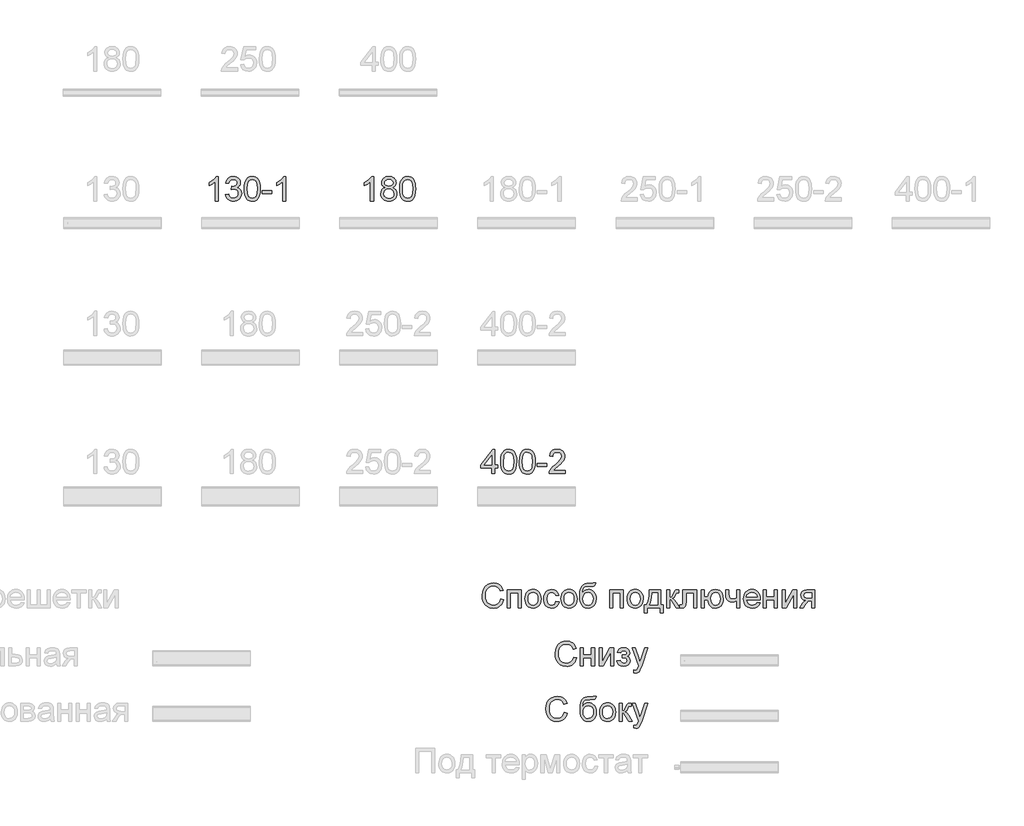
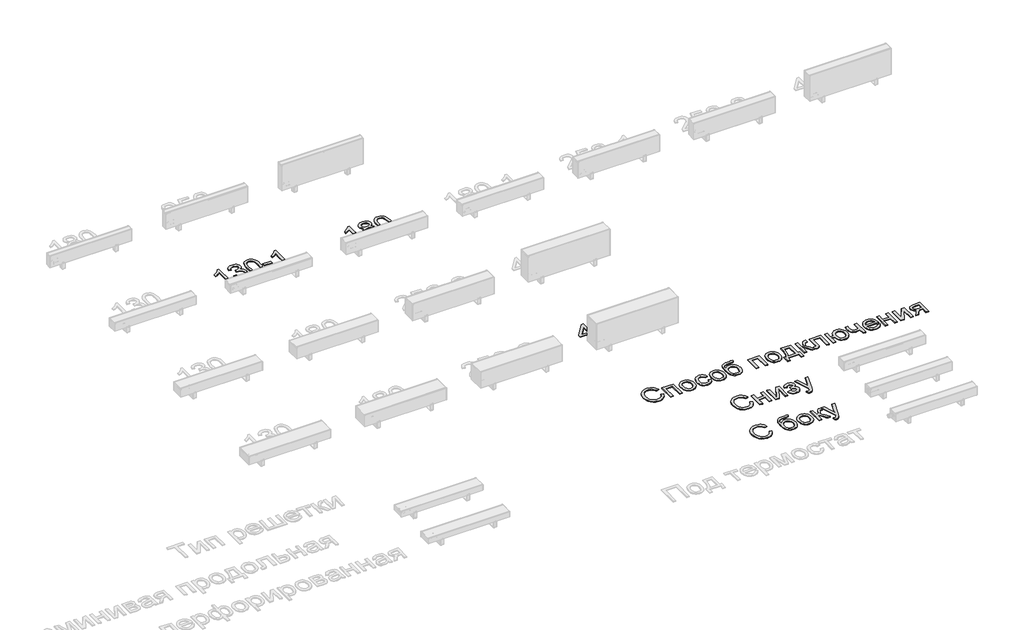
# One storey, part 5 of 7: 6 proxies.
"""IFC4 building model written with IfcOpenShell, lengths in millimetres."""

from ifc_helpers import new_model, si_unit, origin, origin_with_axes, place, context, project, spatial, polyline, outline, extrude, element, save

model = new_model("IFC4")

# Units and contexts
model_context = context("Model", 3, world=origin())
ifc_project = project(units=[si_unit("LENGTHUNIT", "METRE", prefix="MILLI")], contexts=[model_context])

# Site, building, storey
site = spatial("IfcSite", under=ifc_project)
building = spatial("IfcBuilding", under=site)
storey = spatial("IfcBuildingStorey", under=building, Name="Уровень 1", Elevation=0.0)

# Proxies
placement = place(None, origin())
element("IfcBuildingElementProxy", 1, Name="Текст модели 1", ObjectType="Текст модели 1", at=placement, inside=storey, context=model_context, shape_type="SweptSolid", body=[
    extrude(outline(polyline([(4726.2052586, -1140.7706341), (4688.5341423, -1140.7706341), (4688.5341423, -905.9147684), (4652.8495888, -931.3354142), (4613.1919097, -950.3549134), (4613.1919097, -914.7439363), (4642.7788191, -898.649099), (4668.4109972, -879.5008411), (4688.6169157, -859.1385727), (4701.9250469, -839.4017036), (4726.2052586, -839.4017036), (4726.2052586, -1140.7706341)])), origin_with_axes(), (0.0, 0.0, 1.0), 10.0),
    extrude(outline(polyline([(4815.6741598, -1060.7195119), (4853.3452761, -1056.0106224), (4861.7789709, -1079.6838288), (4874.1306089, -1095.6683015), (4891.0071954, -1104.7733809), (4913.0157357, -1107.8084073), (4938.8410518, -1103.6329467), (4958.7802559, -1091.1065647), (4971.5273671, -1072.4181594), (4975.7764041, -1049.7566285), (4971.5641553, -1028.2447288), (4958.9274087, -1010.7979252), (4939.797545, -999.2372335), (4916.1059445, -995.3836696), (4889.6920173, -999.5039479), (4893.885872, -961.8328316), (4899.9191367, -962.27429), (4922.4886971, -959.5703574), (4942.6670246, -951.4585594), (4956.9040578, -937.736561), (4961.6497355, -918.202027), (4958.2100389, -901.9324458), (4947.8909489, -888.7346792), (4932.1455995, -879.9882848), (4912.4271246, -877.0728199), (4892.6718614, -880.0158759), (4876.5218418, -888.8450438), (4864.7312239, -903.5603236), (4858.0541657, -924.1617153), (4820.3830494, -919.4528258), (4831.4746915, -885.6260763), (4851.2115606, -860.3709774), (4878.214099, -844.6440221), (4911.1027494, -839.4017036), (4934.7851528, -841.9860747), (4956.5361758, -849.7391877), (4974.8750932, -861.971264), (4988.3211802, -877.9925249), (4996.5709339, -896.451004), (4999.3208518, -915.994735), (4996.7088896, -934.2048938), (4988.8730031, -950.7227954), (4975.9235569, -964.7942817), (4957.9709156, -975.6651947), (4981.5521514, -985.1933383), (4999.0265462, -1001.4169343), (5009.8422769, -1023.4530658), (5013.4475204, -1050.4188161), (5011.6448987, -1069.5302857), (5006.2370333, -1087.1334392), (4997.2239244, -1103.2282765), (4984.605572, -1117.8147976), (4969.2327031, -1129.9181152), (4951.9560449, -1138.5633421), (4932.7755974, -1143.7504783), (4911.6913606, -1145.4795236), (4892.6350732, -1144.0033971), (4875.271043, -1139.5750176), (4859.59927, -1132.1943851), (4845.6197542, -1121.8614995), (4833.8981142, -1109.1833663), (4824.9999684, -1094.7669906), (4818.925317, -1078.6123725), (4815.6741598, -1060.7195119)])), origin_with_axes(), (0.0, 0.0, 1.0), 10.0),
    extrude(outline(polyline([(5046.4097472, -992.51419), (5049.1780592, -944.2756634), (5057.4829953, -905.8044038), (5071.2417819, -876.5117999), (5090.3716456, -855.8092406), (5115.0105422, -843.5035879), (5145.2964275, -839.4017036), (5168.5097814, -841.8297248), (5189.2951141, -849.1137883), (5206.6775384, -860.9687856), (5219.6821669, -877.1096081), (5229.5046162, -897.3983002), (5237.3405027, -921.696906), (5242.4724565, -952.5530083), (5244.1831078, -992.51419), (5241.4423869, -1040.4768052), (5233.2202243, -1078.8560943), (5219.5442112, -1108.1762893), (5200.4419386, -1128.961622), (5175.7478596, -1141.3500482), (5145.2964275, -1145.4795236), (5124.547883, -1143.6860989), (5106.1537832, -1138.3058247), (5090.1141282, -1129.3387011), (5076.428918, -1116.784728), (5063.2955308, -1094.0910074), (5053.9145399, -1065.8146776), (5048.2859454, -1031.9557384), (5046.4097472, -992.51419)]), holes=[polyline([(5084.0808635, -992.4406136), (5088.4954474, -1051.697206), (5094.0136774, -1071.9652047), (5101.7391993, -1085.993005), (5121.4576742, -1102.3545567), (5145.2964275, -1107.8084073), (5169.1351808, -1102.3361626), (5188.8536557, -1085.9194286), (5196.5791776, -1071.8686357), (5202.0974076, -1051.6052355), (5206.5119915, -992.4406136), (5202.2445604, -934.5175935), (5196.9102714, -914.3162734), (5189.4422669, -899.95508), (5169.7605802, -882.793385), (5144.8549691, -877.0728199), (5121.2737332, -882.1128033), (5102.3278105, -897.2327533), (5094.3447712, -912.8677381), (5088.6426002, -933.9473764), (5084.0808635, -992.4406136)])]), origin_with_axes(), (0.0, 0.0, 1.0), 10.0),
    extrude(outline(polyline([(5267.7275555, -1051.3017329), (5267.7275555, -1013.6306166), (5385.449794, -1013.6306166), (5385.449794, -1051.3017329), (5267.7275555, -1051.3017329)])), origin_with_axes(), (0.0, 0.0, 1.0), 10.0),
    extrude(outline(polyline([(5559.6787069, -1140.7706341), (5522.0075906, -1140.7706341), (5522.0075906, -905.9147684), (5486.323037, -931.3354142), (5446.6653579, -950.3549134), (5446.6653579, -914.7439363), (5476.2522674, -898.649099), (5501.8844454, -879.5008411), (5522.090364, -859.1385727), (5535.3984952, -839.4017036), (5559.6787069, -839.4017036), (5559.6787069, -1140.7706341)])), origin_with_axes(), (0.0, 0.0, 1.0), 10.0),
])
element("IfcBuildingElementProxy", 2, Name="Текст модели 1", ObjectType="Текст модели 1", at=placement, inside=storey, context=model_context, shape_type="SweptSolid", body=[
    extrude(outline(polyline([(6638.3097764, -1140.7706341), (6600.6386601, -1140.7706341), (6600.6386601, -905.9147684), (6564.9541066, -931.3354142), (6525.2964275, -950.3549134), (6525.2964275, -914.7439363), (6554.883337, -898.649099), (6580.515515, -879.5008411), (6600.7214336, -859.1385727), (6614.0295647, -839.4017036), (6638.3097764, -839.4017036), (6638.3097764, -1140.7706341)])), origin_with_axes(), (0.0, 0.0, 1.0), 10.0),
    extrude(outline(polyline([(6782.6666713, -974.7822779), (6762.4975409, -964.849464), (6748.3432812, -951.384983), (6739.9831628, -934.6647463), (6737.1964567, -914.9646655), (6738.71397, -899.6009936), (6743.2665096, -885.5157117), (6750.8540758, -872.7088198), (6761.4766684, -861.1803178), (6774.6238512, -851.6521741), (6789.7851879, -844.8463572), (6826.1503232, -839.4017036), (6862.7361876, -844.9751159), (6878.0630712, -851.9418812), (6891.4125891, -861.6953525), (6902.2283198, -873.4491823), (6909.9538417, -886.4170226), (6914.5891548, -900.5988735), (6916.1342592, -915.994735), (6913.3843413, -935.0602194), (6905.1345875, -951.4953476), (6891.2930275, -964.8770551), (6871.7676906, -974.7822779), (6894.9534533, -986.7292457), (6911.8300398, -1004.3232021), (6922.1215386, -1026.7180185), (6925.5520383, -1053.0675664), (6923.850584, -1071.8571393), (6918.7462213, -1089.0832138), (6910.2389502, -1104.7457897), (6898.3287706, -1118.8448672), (6883.641082, -1130.4975294), (6866.8012836, -1138.8208595), (6847.8093756, -1143.8148576), (6826.6653579, -1145.4795236), (6805.5213403, -1143.8079598), (6786.5294323, -1138.7932684), (6769.6896339, -1130.4354493), (6755.0019453, -1118.7345026), (6743.0917657, -1104.5365568), (6734.5844946, -1088.6877406), (6729.4801319, -1071.188054), (6727.7786776, -1052.0374969), (6731.347133, -1024.6670764), (6742.0524991, -1002.1526983), (6759.3429528, -985.2669147), (6782.6666713, -974.7822779)]), holes=[polyline([(6765.449794, -1050.7131217), (6771.7405761, -1079.0768235), (6780.4501823, -1091.2445205), (6793.9974368, -1100.3036146), (6810.2210328, -1105.9322091), (6826.9596635, -1107.8084073), (6852.6010386, -1103.8628729), (6871.841267, -1092.0262697), (6883.8710082, -1074.1012195), (6887.8809219, -1051.8903441), (6883.7422495, -1029.3023896), (6871.3262322, -1010.9818662), (6851.6445454, -998.8417604), (6825.7088648, -994.7950584), (6800.4261746, -998.7865781), (6781.3790843, -1010.761137), (6769.4321165, -1028.7321725), (6765.449794, -1050.7131217)]), polyline([(6774.867573, -916.0683114), (6778.2061021, -932.5126366), (6788.2216895, -945.6460238), (6804.6200294, -954.2544625), (6827.1068163, -957.1239421), (6849.0693715, -954.2728566), (6865.219391, -945.7196002), (6875.1522049, -933.0276714), (6878.4631429, -917.7605686), (6875.0418403, -901.9140517), (6864.7779326, -888.8082556), (6848.4071839, -880.0066789), (6826.6653579, -877.0728199), (6804.7855763, -879.9422995), (6788.4424186, -888.5507382), (6778.2612844, -901.1690906), (6774.867573, -916.0683114)])]), origin_with_axes(), (0.0, 0.0, 1.0), 10.0),
    extrude(outline(polyline([(6958.514265, -992.51419), (6961.282577, -944.2756634), (6969.5875131, -905.8044038), (6983.3462997, -876.5117999), (7002.4761634, -855.8092406), (7027.1150601, -843.5035879), (7057.4009453, -839.4017036), (7080.6142992, -841.8297248), (7101.3996319, -849.1137883), (7118.7820562, -860.9687856), (7131.7866847, -877.1096081), (7141.609134, -897.3983002), (7149.4450205, -921.696906), (7154.5769743, -952.5530083), (7156.2876256, -992.51419), (7153.5469048, -1040.4768052), (7145.3247422, -1078.8560943), (7131.648729, -1108.1762893), (7112.5464564, -1128.961622), (7087.8523775, -1141.3500482), (7057.4009453, -1145.4795236), (7036.6524008, -1143.6860989), (7018.258301, -1138.3058247), (7002.218646, -1129.3387011), (6988.5334358, -1116.784728), (6975.4000486, -1094.0910074), (6966.0190577, -1065.8146776), (6960.3904632, -1031.9557384), (6958.514265, -992.51419)]), holes=[polyline([(6996.1853813, -992.4406136), (7000.5999653, -1051.697206), (7006.1181952, -1071.9652047), (7013.8437171, -1085.993005), (7033.562192, -1102.3545567), (7057.4009453, -1107.8084073), (7081.2396986, -1102.3361626), (7100.9581736, -1085.9194286), (7108.6836955, -1071.8686357), (7114.2019254, -1051.6052355), (7118.6165093, -992.4406136), (7114.3490782, -934.5175935), (7109.0147892, -914.3162734), (7101.5467847, -899.95508), (7081.865098, -882.793385), (7056.9594869, -877.0728199), (7033.378251, -882.1128033), (7014.4323283, -897.2327533), (7006.449289, -912.8677381), (7000.7471181, -933.9473764), (6996.1853813, -992.4406136)])]), origin_with_axes(), (0.0, 0.0, 1.0), 10.0),
])
element("IfcBuildingElementProxy", 3, Name="Текст модели 1", ObjectType="Текст модели 1", at=placement, inside=storey, context=model_context, shape_type="SweptSolid", body=[
    extrude(outline(polyline([(8093.4730815, -4500.7706341), (8093.4730815, -4430.137291), (7956.9152849, -4430.137291), (7956.9152849, -4392.4661747), (8102.8908606, -4204.1105932), (8131.1441978, -4204.1105932), (8131.1441978, -4392.4661747), (8168.8153141, -4392.4661747), (8168.8153141, -4430.137291), (8131.1441978, -4430.137291), (8131.1441978, -4500.7706341), (8093.4730815, -4500.7706341)]), holes=[polyline([(8093.4730815, -4392.4661747), (8093.4730815, -4276.0683114), (8003.2684163, -4392.4661747), (8093.4730815, -4392.4661747)])]), origin_with_axes(), (0.0, 0.0, 1.0), 10.0),
    extrude(outline(polyline([(8201.7775409, -4352.51419), (8204.5458529, -4304.2756634), (8212.8507889, -4265.8044038), (8226.6095756, -4236.5117999), (8245.7394393, -4215.8092406), (8270.3783359, -4203.5035879), (8300.6642212, -4199.4017036), (8323.8775751, -4201.8297248), (8344.6629078, -4209.1137883), (8362.0453321, -4220.9687856), (8375.0499606, -4237.1096081), (8384.8724099, -4257.3983002), (8392.7082964, -4281.696906), (8397.8402502, -4312.5530083), (8399.5509015, -4352.51419), (8396.8101806, -4400.4768052), (8388.588018, -4438.8560943), (8374.9120049, -4468.1762893), (8355.8097323, -4488.961622), (8331.1156533, -4501.3500482), (8300.6642212, -4505.4795236), (8279.9156767, -4503.6860989), (8261.5215769, -4498.3058247), (8245.4819219, -4489.3387011), (8231.7967117, -4476.784728), (8218.6633245, -4454.0910074), (8209.2823336, -4425.8146776), (8203.6537391, -4391.9557384), (8201.7775409, -4352.51419)]), holes=[polyline([(8239.4486572, -4352.4406136), (8243.8632411, -4411.697206), (8249.3814711, -4431.9652047), (8257.106993, -4445.993005), (8276.8254679, -4462.3545567), (8300.6642212, -4467.8084073), (8324.5029745, -4462.3361626), (8344.2214494, -4445.9194286), (8351.9469713, -4431.8686357), (8357.4652012, -4411.6052355), (8361.8797852, -4352.4406136), (8357.612354, -4294.5175935), (8352.2780651, -4274.3162734), (8344.8100606, -4259.95508), (8325.1283739, -4242.793385), (8300.2227628, -4237.0728199), (8276.6415269, -4242.1128033), (8257.6956041, -4257.2327533), (8249.7125649, -4272.8677381), (8244.0103939, -4293.9473764), (8239.4486572, -4352.4406136)])]), origin_with_axes(), (0.0, 0.0, 1.0), 10.0),
    extrude(outline(polyline([(8432.5131283, -4352.51419), (8435.2814403, -4304.2756634), (8443.5863763, -4265.8044038), (8457.3451629, -4236.5117999), (8476.4750267, -4215.8092406), (8501.1139233, -4203.5035879), (8531.3998086, -4199.4017036), (8554.6131625, -4201.8297248), (8575.3984952, -4209.1137883), (8592.7809195, -4220.9687856), (8605.785548, -4237.1096081), (8615.6079973, -4257.3983002), (8623.4438838, -4281.696906), (8628.5758376, -4312.5530083), (8630.2864889, -4352.51419), (8627.545768, -4400.4768052), (8619.3236054, -4438.8560943), (8605.6475922, -4468.1762893), (8586.5453196, -4488.961622), (8561.8512407, -4501.3500482), (8531.3998086, -4505.4795236), (8510.651264, -4503.6860989), (8492.2571643, -4498.3058247), (8476.2175093, -4489.3387011), (8462.5322991, -4476.784728), (8449.3989118, -4454.0910074), (8440.017921, -4425.8146776), (8434.3893264, -4391.9557384), (8432.5131283, -4352.51419)]), holes=[polyline([(8470.1842446, -4352.4406136), (8474.5988285, -4411.697206), (8480.1170584, -4431.9652047), (8487.8425803, -4445.993005), (8507.5610553, -4462.3545567), (8531.3998086, -4467.8084073), (8555.2385618, -4462.3361626), (8574.9570368, -4445.9194286), (8582.6825587, -4431.8686357), (8588.2007886, -4411.6052355), (8592.6153726, -4352.4406136), (8588.3479414, -4294.5175935), (8583.0136525, -4274.3162734), (8575.545648, -4259.95508), (8555.8639612, -4242.793385), (8530.9583502, -4237.0728199), (8507.3771143, -4242.1128033), (8488.4311915, -4257.2327533), (8480.4481522, -4272.8677381), (8474.7459813, -4293.9473764), (8470.1842446, -4352.4406136)])]), origin_with_axes(), (0.0, 0.0, 1.0), 10.0),
    extrude(outline(polyline([(8653.8309366, -4411.3017329), (8653.8309366, -4373.6306166), (8771.553175, -4373.6306166), (8771.553175, -4411.3017329), (8653.8309366, -4411.3017329)])), origin_with_axes(), (0.0, 0.0, 1.0), 10.0),
    extrude(outline(polyline([(8997.5798728, -4463.0995178), (8997.5798728, -4500.7706341), (8799.8065122, -4500.7706341), (8803.8532142, -4474.7981652), (8813.1422346, -4454.5002761), (8826.7354743, -4434.8093924), (8846.3987669, -4414.1988036), (8873.8979461, -4391.1417995), (8914.5489065, -4355.0341817), (8938.9394828, -4328.3811312), (8951.134771, -4306.7496698), (8955.199867, -4285.7068197), (8951.3646972, -4266.8436704), (8939.8591878, -4251.1627004), (8922.1732609, -4240.5952901), (8899.7968385, -4237.0728199), (8876.2983761, -4240.5125166), (8858.0422321, -4250.8316066), (8846.2608112, -4267.2207495), (8842.1865181, -4288.8706049), (8804.5154018, -4284.1617153), (8813.6480723, -4247.7230037), (8822.1944309, -4233.1870664), (8833.3941384, -4221.1067414), (8846.9896774, -4211.6107874), (8862.7235305, -4204.8279631), (8900.6061789, -4199.4017036), (8920.7960027, -4200.9100198), (8938.7647389, -4205.4349684), (8954.5123875, -4212.9765493), (8968.0389486, -4223.5347625), (8978.9029638, -4236.3278589), (8986.6629746, -4250.5740892), (8991.3189811, -4266.2734533), (8992.8709833, -4283.4259513), (8991.1971202, -4301.4429721), (8986.175531, -4319.1472931), (8977.2635897, -4337.1551167), (8963.9186703, -4356.0826454), (8942.6458939, -4378.6797969), (8909.9503816, -4407.6964893), (8866.6138826, -4443.9328658), (8849.6177344, -4463.0995178), (8997.5798728, -4463.0995178)])), origin_with_axes(), (0.0, 0.0, 1.0), 10.0),
])
element("IfcBuildingElementProxy", 4, Name="Текст модели 1", ObjectType="Текст модели 1", at=placement, inside=storey, context=model_context, shape_type="SweptSolid", body=[
    extrude(outline(polyline([(8200.9980773, -6045.6567867), (8238.6691936, -6055.3688714), (8231.2149846, -6078.7960567), (8221.2867693, -6099.2663905), (8208.8845475, -6116.7798727), (8194.0083193, -6131.3365034), (8176.9937771, -6142.7799327), (8158.176613, -6150.9538108), (8137.5568272, -6155.8581376), (8115.1344196, -6157.4929132), (8071.4392356, -6152.5449004), (8036.7387664, -6137.7008619), (8010.1408982, -6113.4758325), (7990.753517, -6080.3848471), (7978.9169138, -6041.4813261), (7974.9713794, -5999.8186901), (7979.4319486, -5955.8751858), (7992.8136562, -5917.928158), (8014.4175264, -5887.1824202), (8043.5445833, -5864.8427861), (8078.0887027, -5851.2403493), (8115.94376, -5846.7062037), (8157.247711, -5852.5739215), (8175.2164472, -5859.9085688), (8191.3963572, -5870.177075), (8205.5207265, -5883.1081271), (8217.3228408, -5898.4304122), (8233.960304, -5936.2486813), (8196.2891877, -5945.225002), (8183.2293769, -5917.753414), (8165.3871001, -5898.9086588), (8142.5416282, -5888.0101547), (8114.472232, -5884.37732), (8082.1170105, -5888.4056279), (8055.5375364, -5900.4905514), (8035.368406, -5919.3628978), (8022.2442158, -5943.753474), (8015.0429257, -5971.3262296), (8012.6424957, -5999.7451137), (8015.4843841, -6034.5467505), (8024.0100494, -6064.6394977), (8038.5413882, -6088.8737241), (8059.4002973, -6106.0997985), (8084.4070759, -6116.3912973), (8111.3820232, -6119.8217969), (8142.8267368, -6115.1496956), (8169.0291319, -6101.1333916), (8188.8119862, -6077.9200377), (8200.9980773, -6045.6567867)])), origin_with_axes(), (0.0, 0.0, 1.0), 10.0),
    extrude(outline(polyline([(8285.7580889, -5931.4662154), (8455.2781123, -5931.4662154), (8455.2781123, -6152.7840237), (8417.606996, -6152.7840237), (8417.606996, -5969.1373317), (8323.4292053, -5969.1373317), (8323.4292053, -6152.7840237), (8285.7580889, -6152.7840237), (8285.7580889, -5931.4662154)])), origin_with_axes(), (0.0, 0.0, 1.0), 10.0),
    extrude(outline(polyline([(8502.3670077, -6042.1251196), (8504.4041543, -6013.4625136), (8510.5155939, -5988.7638362), (8520.7013266, -5968.0290872), (8534.9613525, -5951.2582667), (8549.3179473, -5940.5391051), (8565.1644643, -5932.8825611), (8582.5009033, -5928.2886347), (8601.3272644, -5926.7573259), (8622.1102979, -5928.6220277), (8640.90217, -5934.2161333), (8657.7028809, -5943.5396426), (8672.5124305, -5956.5925557), (8684.5996533, -5972.933414), (8693.2333839, -5992.1207594), (8698.4136222, -6014.1545916), (8700.1403683, -6039.0349108), (8697.0869478, -6077.0923032), (8687.9266861, -6106.0630103), (8672.9262977, -6127.758851), (8652.3524971, -6143.991644), (8627.9159356, -6154.1175959), (8601.3272644, -6157.4929132), (8580.2407283, -6155.6351092), (8561.2741122, -6150.0616969), (8544.4274161, -6140.7726766), (8529.7006399, -6127.768048), (8517.7421758, -6111.2685405), (8509.2004158, -6091.4948833), (8504.0753597, -6068.4470763), (8502.3670077, -6042.1251196)]), holes=[polyline([(8540.038124, -6042.0515432), (8544.3975257, -6076.1450071), (8557.4757306, -6100.4344158), (8577.1574173, -6114.9749516), (8601.3272644, -6119.8217969), (8625.3867469, -6114.9473605), (8645.0316454, -6100.3240512), (8658.1098504, -6075.7127457), (8662.469252, -6040.8743208), (8658.0822592, -6007.7741383), (8644.9212808, -5983.8158233), (8625.2487911, -5969.2752875), (8601.3272644, -5964.4284422), (8577.1574173, -5969.2568934), (8557.4757306, -5983.7422469), (8544.3975257, -6007.9764733), (8540.038124, -6042.0515432)])]), origin_with_axes(), (0.0, 0.0, 1.0), 10.0),
    extrude(outline(polyline([(8883.7870603, -6072.7329016), (8921.4581766, -6077.4417911), (8910.9551456, -6110.9466438), (8891.2182766, -6136.2661221), (8864.1053736, -6152.1862155), (8831.4742406, -6157.4929132), (8810.3463178, -6155.642007), (8791.4026943, -6150.0892881), (8774.6433701, -6140.8347566), (8760.0683453, -6127.8784126), (8748.2708296, -6111.4639779), (8739.8440326, -6091.8351742), (8734.7879545, -6068.9920015), (8733.1025951, -6042.9344599), (8735.9812717, -6009.4112131), (8744.6173015, -5980.3577326), (8759.1486403, -5956.8960583), (8779.7132439, -5940.1482305), (8804.3153523, -5930.105052), (8830.9592058, -5926.7573259), (8862.7901954, -5931.3558508), (8888.2384324, -5945.1514256), (8906.4945765, -5967.4082863), (8916.7492871, -5997.3906689), (8879.0781708, -6002.0995585), (8872.2447627, -5985.6644303), (8861.603776, -5973.8830094), (8847.7438218, -5966.792084), (8831.2535114, -5964.4284422), (8806.9089204, -5969.0821494), (8787.5859186, -5983.0432711), (8774.9767632, -6007.0659654), (8770.7737114, -6041.9043904), (8774.8847927, -6077.2118648), (8787.2180366, -6101.3173326), (8806.1915505, -6115.1956808), (8830.2234418, -6119.8217969), (8849.7303846, -6116.9339233), (8865.7240543, -6108.2703023), (8877.3583224, -6093.6102048), (8883.7870603, -6072.7329016)])), origin_with_axes(), (0.0, 0.0, 1.0), 10.0),
    extrude(outline(polyline([(8945.0026243, -6042.1251196), (8947.0397709, -6013.4625136), (8953.1512105, -5988.7638362), (8963.3369432, -5968.0290872), (8977.5969691, -5951.2582667), (8991.9535639, -5940.5391051), (9007.8000809, -5932.8825611), (9025.1365199, -5928.2886347), (9043.962881, -5926.7573259), (9064.7459145, -5928.6220277), (9083.5377866, -5934.2161333), (9100.3384975, -5943.5396426), (9115.1480471, -5956.5925557), (9127.2352699, -5972.933414), (9135.8690005, -5992.1207594), (9141.0492388, -6014.1545916), (9142.7759849, -6039.0349108), (9139.7225644, -6077.0923032), (9130.5623027, -6106.0630103), (9115.5619143, -6127.758851), (9094.9881137, -6143.991644), (9070.5515522, -6154.1175959), (9043.962881, -6157.4929132), (9022.8763449, -6155.6351092), (9003.9097288, -6150.0616969), (8987.0630327, -6140.7726766), (8972.3362565, -6127.768048), (8960.3777924, -6111.2685405), (8951.8360324, -6091.4948833), (8946.7109763, -6068.4470763), (8945.0026243, -6042.1251196)]), holes=[polyline([(8982.6737406, -6042.0515432), (8987.0331423, -6076.1450071), (9000.1113472, -6100.4344158), (9019.7930339, -6114.9749516), (9043.962881, -6119.8217969), (9068.0223635, -6114.9473605), (9087.667262, -6100.3240512), (9100.745467, -6075.7127457), (9105.1048686, -6040.8743208), (9100.7178758, -6007.7741383), (9087.5568974, -5983.8158233), (9067.8844077, -5969.2752875), (9043.962881, -5964.4284422), (9019.7930339, -5969.2568934), (9000.1113472, -5983.7422469), (8987.0331423, -6007.9764733), (8982.6737406, -6042.0515432)])]), origin_with_axes(), (0.0, 0.0, 1.0), 10.0),
    extrude(outline(polyline([(9340.5493455, -5846.7062037), (9373.5115723, -5846.7062037), (9369.9431169, -5864.6128598), (9363.7994876, -5876.0999751), (9355.2830194, -5882.896595), (9344.5960475, -5886.7317648), (9298.4636453, -5889.0862096), (9260.1579325, -5891.2567133), (9236.3283763, -5897.7682246), (9222.072949, -5909.0622019), (9212.489623, -5925.5801035), (9206.8518314, -5947.4506881), (9204.4330073, -5974.8027144), (9219.5805485, -5953.7598643), (9237.0641403, -5938.7502789), (9256.9021769, -5929.7555641), (9279.1130523, -5926.7573259), (9299.6362691, -5928.6634145), (9318.3108789, -5934.3816802), (9335.1368817, -5943.9121232), (9350.1142774, -5957.2547433), (9362.4107331, -5973.8485205), (9371.1939157, -5993.1324348), (9376.4638253, -6015.1064863), (9378.2204618, -6039.7706748), (9374.7347799, -6075.7311398), (9364.2777342, -6104.5914823), (9349.0382226, -6127.023087), (9331.2051428, -6143.6973384), (9308.6171883, -6154.0440195), (9279.1130523, -6157.4929132), (9245.1115589, -6153.0507381), (9219.6265337, -6139.7242129), (9200.873749, -6119.472309), (9187.0689771, -6094.2539983), (9178.570903, -6056.2793793), (9175.7382117, -5997.7585509), (9177.5247386, -5958.0939741), (9182.8843194, -5925.4789359), (9191.8169541, -5899.9134365), (9204.3226427, -5881.3974759), (9220.5347424, -5868.2801835), (9240.5866104, -5858.9106889), (9264.4782467, -5853.2889922), (9292.2096514, -5851.4150933), (9334.1481988, -5850.5689647), (9340.5493455, -5846.7062037)]), holes=[polyline([(9340.5493455, -6038.5934524), (9336.4658554, -6008.9513606), (9324.2153849, -5985.2137749), (9304.5336982, -5969.6247754), (9278.1565591, -5964.4284422), (9250.65738, -5969.9190809), (9239.5703364, -5976.7823794), (9230.2583234, -5986.3909973), (9217.6215768, -6012.0415694), (9213.409328, -6045.0681755), (9218.0630352, -6077.0831061), (9232.0241569, -6100.5815686), (9252.8094897, -6115.0117398), (9277.9358299, -6119.8217969), (9303.1909289, -6114.2575818), (9323.1853153, -6097.5649362), (9336.208338, -6071.6936349), (9340.5493455, -6038.5934524)])]), origin_with_axes(), (0.0, 0.0, 1.0), 10.0),
    extrude(outline(polyline([(9543.0315957, -5931.4662154), (9712.551619, -5931.4662154), (9712.551619, -6152.7840237), (9674.8805027, -6152.7840237), (9674.8805027, -5969.1373317), (9580.702712, -5969.1373317), (9580.702712, -6152.7840237), (9543.0315957, -6152.7840237), (9543.0315957, -5931.4662154)])), origin_with_axes(), (0.0, 0.0, 1.0), 10.0),
    extrude(outline(polyline([(9759.6405144, -6042.1251196), (9761.677661, -6013.4625136), (9767.7891006, -5988.7638362), (9777.9748334, -5968.0290872), (9792.2348592, -5951.2582667), (9806.5914541, -5940.5391051), (9822.437971, -5932.8825611), (9839.77441, -5928.2886347), (9858.6007711, -5926.7573259), (9879.3838046, -5928.6220277), (9898.1756768, -5934.2161333), (9914.9763876, -5943.5396426), (9929.7859372, -5956.5925557), (9941.87316, -5972.933414), (9950.5068906, -5992.1207594), (9955.6871289, -6014.1545916), (9957.413875, -6039.0349108), (9954.3604545, -6077.0923032), (9945.2001928, -6106.0630103), (9930.1998044, -6127.758851), (9909.6260039, -6143.991644), (9885.1894423, -6154.1175959), (9858.6007711, -6157.4929132), (9837.514235, -6155.6351092), (9818.5476189, -6150.0616969), (9801.7009228, -6140.7726766), (9786.9741467, -6127.768048), (9775.0156826, -6111.2685405), (9766.4739225, -6091.4948833), (9761.3488664, -6068.4470763), (9759.6405144, -6042.1251196)]), holes=[polyline([(9797.3116307, -6042.0515432), (9801.6710324, -6076.1450071), (9814.7492373, -6100.4344158), (9834.430924, -6114.9749516), (9858.6007711, -6119.8217969), (9882.6602536, -6114.9473605), (9902.3051522, -6100.3240512), (9915.3833571, -6075.7127457), (9919.7427587, -6040.8743208), (9915.3557659, -6007.7741383), (9902.1947876, -5983.8158233), (9882.5222979, -5969.2752875), (9858.6007711, -5964.4284422), (9834.430924, -5969.2568934), (9814.7492373, -5983.7422469), (9801.6710324, -6007.9764733), (9797.3116307, -6042.0515432)])]), origin_with_axes(), (0.0, 0.0, 1.0), 10.0),
    extrude(outline(polyline([(10032.7561076, -5931.4662154), (10174.0227938, -5931.4662154), (10174.0227938, -6115.1129074), (10202.276131, -6115.1129074), (10202.276131, -6213.9995877), (10164.6050147, -6213.9995877), (10164.6050147, -6152.7840237), (10009.21166, -6152.7840237), (10009.21166, -6213.9995877), (9971.5405436, -6213.9995877), (9971.5405436, -6115.1129074), (9995.0849913, -6115.1129074), (10012.2007012, -6084.1832287), (10024.1844572, -6043.2655537), (10031.0362593, -5992.3598827), (10032.7561076, -5931.4662154)]), holes=[polyline([(10065.7183344, -5969.1373317), (10062.6281257, -6015.2605369), (10056.8891665, -6054.9642012), (10048.501457, -6088.2483247), (10037.4649972, -6115.1129074), (10136.3516775, -6115.1129074), (10136.3516775, -5969.1373317), (10065.7183344, -5969.1373317)])]), origin_with_axes(), (0.0, 0.0, 1.0), 10.0),
    extrude(outline(polyline([(10447.138387, -5931.4662154), (10616.6584104, -5931.4662154), (10616.6584104, -6152.5632945), (10578.9872941, -6152.5632945), (10578.9872941, -5969.1373317), (10484.8095033, -5969.1373317), (10484.8095033, -6074.7194643), (10482.2711175, -6123.4270405), (10477.5162428, -6134.4543033), (10468.3283899, -6143.991644), (10454.3856623, -6150.5859288), (10435.3661632, -6152.7840237), (10404.7583812, -6150.8710373), (10404.7583812, -6115.1129074), (10421.6073765, -6115.1129074), (10438.6403129, -6112.7952508), (10445.4461298, -6105.4376109), (10447.138387, -6072.5857488), (10447.138387, -5931.4662154)])), origin_with_axes(), (0.0, 0.0, 1.0), 10.0),
    extrude(outline(polyline([(10244.6561369, -5931.4662154), (10282.3272532, -5931.4662154), (10282.3272532, -6025.6440062), (10297.6495383, -6023.951749), (10307.563958, -6018.8749775), (10316.3379436, -6005.6312256), (10328.2389262, -5979.4380276), (10345.4190153, -5945.408943), (10360.5757535, -5934.335695), (10388.130115, -5931.4662154), (10395.3406021, -5931.4662154), (10395.3406021, -5969.3580609), (10385.187059, -5969.1373317), (10366.7929593, -5973.1104573), (10353.843513, -5997.9057037), (10338.6499866, -6024.7243012), (10317.3496191, -6037.8576884), (10329.2873899, -6043.1597877), (10341.114796, -6052.5177859), (10364.4385145, -6083.4014794), (10404.7583812, -6152.7840237), (10361.9369169, -6152.7840237), (10322.4263906, -6084.8730074), (10302.5607629, -6056.1414236), (10293.2717425, -6050.9266963), (10282.3272532, -6049.1884539), (10282.3272532, -6152.7840237), (10244.6561369, -6152.7840237), (10244.6561369, -5931.4662154)])), origin_with_axes(), (0.0, 0.0, 1.0), 10.0),
    extrude(outline(polyline([(10673.1650848, -5931.4662154), (10710.8362012, -5931.4662154), (10710.8362012, -6016.2262271), (10753.216207, -6016.2262271), (10762.992671, -5977.8193468), (10771.516037, -5962.4786676), (10782.4628256, -5949.7131624), (10795.5249357, -5939.6699839), (10810.3942661, -5932.496285), (10845.5545878, -5926.7573259), (10875.104709, -5930.1326432), (10897.6834665, -5940.2585951), (10915.102679, -5956.3074471), (10929.1741653, -5977.4514648), (10938.4723827, -6005.2633436), (10941.5717885, -6041.3157792), (10939.9692026, -6068.1711648), (10935.1614448, -6091.5684597), (10927.1485151, -6111.5076638), (10915.9304135, -6127.9887772), (10901.9669925, -6140.8968367), (10885.7181046, -6150.1168792), (10867.1837498, -6155.6489047), (10846.3639282, -6157.4929132), (10826.9604522, -6155.7638679), (10809.5849257, -6150.5767317), (10794.2373487, -6141.9315048), (10780.9177212, -6129.8281872), (10769.957137, -6114.7082372), (10761.6866899, -6097.0131132), (10753.216207, -6053.8973434), (10710.8362012, -6053.8973434), (10710.8362012, -6152.7840237), (10673.1650848, -6152.7840237), (10673.1650848, -5931.4662154)]), holes=[polyline([(10847.982609, -5964.4284422), (10823.9691117, -5969.3028786), (10805.9336969, -5983.9261879), (10794.6489167, -6007.3418769), (10790.8873233, -6038.5934524), (10794.6765079, -6075.0045729), (10806.0440615, -6100.2136866), (10823.7575796, -6114.9197693), (10846.5846574, -6119.8217969), (10869.4761145, -6115.2876513), (10887.824229, -6101.6852146), (10899.8815614, -6077.984417), (10903.9006722, -6043.1551891), (10900.4241874, -6008.7122373), (10889.9947328, -5984.1101289), (10872.5387321, -5969.3488639), (10847.982609, -5964.4284422)])]), origin_with_axes(), (0.0, 0.0, 1.0), 10.0),
    extrude(outline(polyline([(10974.5340153, -5931.4662154), (11012.2051316, -5931.4662154), (11012.2051316, -5973.9197976), (11015.2585522, -6013.7246295), (11020.4548853, -6025.2945183), (11029.9370438, -6035.2825144), (11043.0336428, -6042.1803019), (11059.0732978, -6044.4795643), (11082.1211048, -6041.6284789), (11111.0918119, -6033.0752225), (11111.0918119, -5931.4662154), (11148.7629282, -5931.4662154), (11148.7629282, -6152.7840237), (11111.0918119, -6152.7840237), (11111.0918119, -6069.2012344), (11078.9389255, -6078.9133191), (11048.9933311, -6082.1506806), (11026.2122386, -6078.7753633), (11006.2822315, -6068.6494114), (10990.7484142, -6053.630629), (10981.1558912, -6035.57682), (10976.1894843, -6015.0306106), (10974.5340153, -5992.5346266), (10974.5340153, -5931.4662154)])), origin_with_axes(), (0.0, 0.0, 1.0), 10.0),
    extrude(outline(polyline([(11360.221499, -6086.8595702), (11397.1568514, -6091.5684597), (11383.8487202, -6119.3987326), (11362.612732, -6140.2024595), (11333.9271334, -6153.1702998), (11298.2701711, -6157.4929132), (11274.8958688, -6155.6282114), (11254.0691493, -6150.0341058), (11235.7900127, -6140.7105965), (11220.0584589, -6127.6576834), (11207.4079168, -6111.2386501), (11198.3718153, -6091.8167801), (11192.9501544, -6069.3920732), (11191.1429341, -6043.9645295), (11192.9685485, -6017.6747624), (11198.4453917, -5994.5027953), (11207.5734637, -5974.448628), (11220.3527645, -5957.5122607), (11236.0429316, -5944.0569767), (11253.9036024, -5934.4460596), (11273.9347771, -5928.6795093), (11296.1364555, -5926.7573259), (11317.6230633, -5928.6749108), (11337.0541304, -5934.4276655), (11354.4296569, -5944.01559), (11369.7496427, -5957.4386843), (11382.2553313, -5974.3382634), (11391.187966, -5994.3556425), (11396.5475468, -6017.4908215), (11398.3340737, -6043.7438003), (11398.1133445, -6053.8973434), (11228.8140504, -6053.8973434), (11235.3347587, -6082.0954983), (11250.4822999, -6102.8256488), (11272.3436874, -6115.5727599), (11299.005935, -6119.8217969), (11319.0555038, -6117.8536283), (11335.9412874, -6111.9491222), (11349.6632858, -6101.7403969), (11360.221499, -6086.8595702)]), holes=[polyline([(11228.8140504, -6016.2262271), (11360.6629574, -6016.2262271), (11355.5677918, -5996.3238112), (11345.5797956, -5982.0867779), (11323.6172405, -5968.8430261), (11295.9893027, -5964.4284422), (11270.596248, -5967.9509123), (11249.5993831, -5978.5183226), (11235.0036649, -5994.9902389), (11228.8140504, -6016.2262271)])]), origin_with_axes(), (0.0, 0.0, 1.0), 10.0),
    extrude(outline(polyline([(11436.00519, -5931.4662154), (11473.6763064, -5931.4662154), (11473.6763064, -6016.2262271), (11572.5629867, -6016.2262271), (11572.5629867, -5931.4662154), (11610.234103, -5931.4662154), (11610.234103, -6152.7840237), (11572.5629867, -6152.7840237), (11572.5629867, -6053.8973434), (11473.6763064, -6053.8973434), (11473.6763064, -6152.7840237), (11436.00519, -6152.7840237), (11436.00519, -5931.4662154)])), origin_with_axes(), (0.0, 0.0, 1.0), 10.0),
    extrude(outline(polyline([(11666.7407774, -5931.4662154), (11704.4118937, -5931.4662154), (11704.4118937, -6100.2504748), (11796.9710037, -5931.4662154), (11845.6785799, -5931.4662154), (11845.6785799, -6152.7840237), (11808.0074636, -6152.7840237), (11808.0074636, -5985.0298339), (11716.0369648, -6152.7840237), (11666.7407774, -6152.7840237), (11666.7407774, -5931.4662154)])), origin_with_axes(), (0.0, 0.0, 1.0), 10.0),
    extrude(outline(polyline([(12071.7052777, -5931.4662154), (12071.7052777, -6152.7840237), (12034.0341614, -6152.7840237), (12034.0341614, -6068.024012), (12013.5063461, -6068.024012), (11985.5473144, -6072.8064779), (11974.3820959, -6083.2359325), (11959.28054, -6104.9593643), (11929.2613692, -6152.7840237), (11885.7041409, -6152.7840237), (11923.5224101, -6092.3042237), (11940.2242526, -6070.599186), (11955.60172, -6060.9606777), (11929.8499804, -6053.0696089), (11911.7501862, -6038.0784176), (11901.0448201, -6018.1392135), (11897.4763648, -5995.4041062), (11902.3508012, -5969.6155783), (11916.9741105, -5949.1981276), (11940.8312579, -5935.8991934), (11973.4072086, -5931.4662154), (12071.7052777, -5931.4662154)]), holes=[polyline([(12034.0341614, -5969.1373317), (11984.3700921, -5969.1373317), (11958.7195199, -5971.3170325), (11944.16059, -5977.856135), (11937.4007583, -5987.3198993), (11935.1474811, -5998.2735857), (11938.4676161, -6012.6301806), (11948.4280211, -6022.5905856), (11966.8313179, -6028.4123182), (11995.4801283, -6030.3528957), (12034.0341614, -6030.3528957), (12034.0341614, -5969.1373317)])]), origin_with_axes(), (0.0, 0.0, 1.0), 10.0),
])
element("IfcBuildingElementProxy", 5, Name="Текст модели 1", ObjectType="Текст модели 1", at=placement, inside=storey, context=model_context, shape_type="SweptSolid", body=[
    extrude(outline(polyline([(9099.5489081, -6761.6908398), (9137.2200244, -6771.4029245), (9129.7658155, -6794.8301098), (9119.8376002, -6815.3004435), (9107.4353784, -6832.8139258), (9092.5591502, -6847.3705565), (9075.544608, -6858.8139858), (9056.7274439, -6866.9878639), (9036.1076581, -6871.8921907), (9013.6852505, -6873.5269663), (8969.9900665, -6868.5789535), (8935.2895973, -6853.734915), (8908.691729, -6829.5098856), (8889.3043479, -6796.4189001), (8877.4677447, -6757.5153792), (8873.5222103, -6715.8527432), (8877.9827795, -6671.9092389), (8891.3644871, -6633.9622111), (8912.9683572, -6603.2164733), (8942.0954142, -6580.8768392), (8976.6395335, -6567.2744024), (9014.4945909, -6562.7402568), (9055.7985419, -6568.6079746), (9073.7672781, -6575.9426219), (9089.9471881, -6586.2111281), (9104.0715574, -6599.1421802), (9115.8736717, -6614.4644653), (9132.5111349, -6652.2827344), (9094.8400186, -6661.2590551), (9081.7802078, -6633.7874671), (9063.937931, -6614.9427119), (9041.0924591, -6604.0442078), (9013.0230629, -6600.4113731), (8980.6678414, -6604.439681), (8954.0883672, -6616.5246045), (8933.9192369, -6635.3969509), (8920.7950467, -6659.7875271), (8913.5937566, -6687.3602827), (8911.1933266, -6715.7791668), (8914.035215, -6750.5808035), (8922.5608803, -6780.6735508), (8937.0922191, -6804.9077772), (8957.9511282, -6822.1338516), (8982.9579068, -6832.4253504), (9009.9328541, -6835.85585), (9041.3775676, -6831.1837487), (9067.5799628, -6817.1674447), (9087.362817, -6793.9540908), (9099.5489081, -6761.6908398)])), origin_with_axes(), (0.0, 0.0, 1.0), 10.0),
    extrude(outline(polyline([(9184.3089198, -6647.5002685), (9221.9800361, -6647.5002685), (9221.9800361, -6732.2602802), (9320.8667164, -6732.2602802), (9320.8667164, -6647.5002685), (9358.5378327, -6647.5002685), (9358.5378327, -6868.8180768), (9320.8667164, -6868.8180768), (9320.8667164, -6769.9313965), (9221.9800361, -6769.9313965), (9221.9800361, -6868.8180768), (9184.3089198, -6868.8180768), (9184.3089198, -6647.5002685)])), origin_with_axes(), (0.0, 0.0, 1.0), 10.0),
    extrude(outline(polyline([(9415.0445072, -6647.5002685), (9452.7156235, -6647.5002685), (9452.7156235, -6816.2845279), (9545.2747335, -6647.5002685), (9593.9823097, -6647.5002685), (9593.9823097, -6868.8180768), (9556.3111933, -6868.8180768), (9556.3111933, -6701.063887), (9464.3406946, -6868.8180768), (9415.0445072, -6868.8180768), (9415.0445072, -6647.5002685)])), origin_with_axes(), (0.0, 0.0, 1.0), 10.0),
    extrude(outline(polyline([(9702.286769, -6769.9313965), (9702.286769, -6732.2602802), (9732.0116342, -6730.7887522), (9747.0212196, -6722.9528657), (9752.3187204, -6715.6044229), (9754.084554, -6706.5821169), (9751.7209121, -6695.8675538), (9744.6299867, -6687.5626178), (9733.805059, -6682.2375259), (9720.2394104, -6680.4624953), (9706.526609, -6682.2283288), (9695.0394937, -6687.5258296), (9685.7780645, -6696.3549975), (9678.7423213, -6708.7158325), (9636.3623155, -6704.006943), (9647.6011105, -6677.2251337), (9664.6892291, -6658.09527), (9687.6266715, -6646.6173517), (9716.4134376, -6642.791379), (9747.9041364, -6647.4542832), (9771.7428897, -6661.4429961), (9786.7524751, -6681.9064321), (9791.7556703, -6705.9935057), (9789.9760411, -6718.3543408), (9784.6371537, -6729.3908006), (9775.7390079, -6739.1028853), (9763.2816038, -6747.4905948), (9777.8221397, -6757.9568375), (9788.1872149, -6770.9614661), (9794.3952236, -6786.5412686), (9796.4645598, -6804.7330332), (9791.2130443, -6832.4621386), (9775.4584979, -6854.4338908), (9750.2677783, -6868.7536974), (9716.7077432, -6873.5269663), (9683.8834722, -6869.1123824), (9658.766329, -6855.8686306), (9641.3563136, -6833.7957109), (9631.653426, -6802.8936233), (9674.0334318, -6798.1847337), (9680.3793962, -6814.1140241), (9691.02958, -6825.9966126), (9704.7515784, -6833.3910407), (9720.3129868, -6835.85585), (9735.469725, -6833.4922082), (9747.83056, -6826.4012828), (9756.0527226, -6815.6315373), (9758.7934435, -6802.2314357), (9757.0919893, -6791.6180401), (9751.9876266, -6782.4393843), (9737.493076, -6771.8443829), (9709.6444089, -6769.7106673), (9702.286769, -6769.9313965)])), origin_with_axes(), (0.0, 0.0, 1.0), 10.0),
    extrude(outline(polyline([(9843.5534552, -6953.5780885), (9838.8445656, -6917.3049238), (9857.9744294, -6920.6158617), (9875.8534944, -6916.4587952), (9886.8163778, -6904.8705123), (9897.1170737, -6877.1322099), (9900.0601296, -6868.0087364), (9820.0090075, -6647.5002685), (9859.740263, -6647.5002685), (9902.1938452, -6770.3728549), (9916.9827014, -6819.5218894), (9931.7715576, -6776.111814), (9975.4023623, -6647.5002685), (10014.8393121, -6647.5002685), (9937.8048223, -6874.1155775), (9917.7920418, -6923.2646121), (9907.5465282, -6938.9547792), (9895.9398513, -6949.8256921), (9882.4569762, -6956.1716566), (9866.5828681, -6958.286978), (9843.5534552, -6953.5780885)])), origin_with_axes(), (0.0, 0.0, 1.0), 10.0),
])
element("IfcBuildingElementProxy", 6, Name="Текст модели 1", ObjectType="Текст модели 1", at=placement, inside=storey, context=model_context, shape_type="SweptSolid", body=[
    extrude(outline(polyline([(8986.5355592, -7441.1418885), (9024.2066755, -7450.8539731), (9016.7524666, -7474.2811585), (9006.8242513, -7494.7514922), (8994.4220295, -7512.2649745), (8979.5458013, -7526.8216052), (8962.531259, -7538.2650345), (8943.714095, -7546.4389125), (8923.0943091, -7551.3432394), (8900.6719015, -7552.978015), (8856.9767176, -7548.0300022), (8822.2762484, -7533.1859637), (8795.6783801, -7508.9609343), (8776.290999, -7475.8699488), (8764.4543958, -7436.9664278), (8760.5088614, -7395.3037919), (8764.9694306, -7351.3602876), (8778.3511381, -7313.4132598), (8799.9550083, -7282.667522), (8829.0820653, -7260.3278878), (8863.6261846, -7246.7254511), (8901.4812419, -7242.1913055), (8942.7851929, -7248.0590233), (8960.7539291, -7255.3936706), (8976.9338391, -7265.6621768), (8991.0582085, -7278.5932289), (9002.8603228, -7293.915514), (9019.497786, -7331.7337831), (8981.8266697, -7340.7101038), (8968.7668589, -7313.2385158), (8950.9245821, -7294.3937606), (8928.0791102, -7283.4952565), (8900.009714, -7279.8624218), (8867.6544925, -7283.8907296), (8841.0750183, -7295.9756532), (8820.9058879, -7314.8479995), (8807.7816978, -7339.2385758), (8800.5804077, -7366.8113314), (8798.1799777, -7395.2302155), (8801.0218661, -7430.0318522), (8809.5475313, -7460.1245994), (8824.0788701, -7484.3588259), (8844.9377793, -7501.5849003), (8869.9445579, -7511.8763991), (8896.9195052, -7515.3068987), (8928.3642187, -7510.6347974), (8954.5666138, -7496.6184933), (8974.3494681, -7473.4051395), (8986.5355592, -7441.1418885)])), origin_with_axes(), (0.0, 0.0, 1.0), 10.0),
    extrude(outline(polyline([(9344.4111641, -7242.1913055), (9377.3733909, -7242.1913055), (9373.8049355, -7260.0979616), (9367.6613062, -7271.5850769), (9359.144838, -7278.3816968), (9348.4578661, -7282.2168666), (9302.3254639, -7284.5713113), (9264.0197511, -7286.7418151), (9240.1901949, -7293.2533264), (9225.9347676, -7304.5473037), (9216.3514416, -7321.0652053), (9210.71365, -7342.9357899), (9208.2948259, -7370.2878162), (9223.4423671, -7349.2449661), (9240.9259589, -7334.2353807), (9260.7639955, -7325.2406659), (9282.9748709, -7322.2424276), (9303.4980877, -7324.1485162), (9322.1726975, -7329.866782), (9338.9987003, -7339.3972249), (9353.976096, -7352.739845), (9366.2725517, -7369.3336223), (9375.0557343, -7388.6175366), (9380.3256439, -7410.591588), (9382.0822804, -7435.2557766), (9378.5965985, -7471.2162416), (9368.1395528, -7500.0765841), (9352.9000412, -7522.5081888), (9335.0669614, -7539.1824402), (9312.4790069, -7549.5291213), (9282.9748709, -7552.978015), (9248.9733775, -7548.5358399), (9223.4883523, -7535.2093146), (9204.7355676, -7514.9574108), (9190.9307957, -7489.7391), (9182.4327216, -7451.7644811), (9179.6000303, -7393.2436527), (9181.3865572, -7353.5790758), (9186.746138, -7320.9640377), (9195.6787727, -7295.3985383), (9208.1844613, -7276.8825776), (9224.396561, -7263.7652852), (9244.448429, -7254.3957907), (9268.3400653, -7248.7740939), (9296.07147, -7246.900195), (9338.0100174, -7246.0540664), (9344.4111641, -7242.1913055)]), holes=[polyline([(9344.4111641, -7434.0785542), (9340.327674, -7404.4364624), (9328.0772035, -7380.6988767), (9308.3955168, -7365.1098771), (9282.0183777, -7359.9135439), (9254.5191986, -7365.4041827), (9243.432155, -7372.2674812), (9234.120142, -7381.8760991), (9221.4833954, -7407.5266712), (9217.2711466, -7440.5532773), (9221.9248538, -7472.5682079), (9235.8859755, -7496.0666704), (9256.6713083, -7510.4968416), (9281.7976485, -7515.3068987), (9307.0527475, -7509.7426835), (9327.047134, -7493.050038), (9340.0701566, -7467.1787367), (9344.4111641, -7434.0785542)])]), origin_with_axes(), (0.0, 0.0, 1.0), 10.0),
    extrude(outline(polyline([(9419.7533967, -7437.6102213), (9421.7905433, -7408.9476154), (9427.9019829, -7384.2489379), (9438.0877157, -7363.514189), (9452.3477415, -7346.7433685), (9466.7043364, -7336.0242069), (9482.5508533, -7328.3676629), (9499.8872923, -7323.7737364), (9518.7136534, -7322.2424276), (9539.4966869, -7324.1071295), (9558.2885591, -7329.7012351), (9575.0892699, -7339.0247444), (9589.8988195, -7352.0776574), (9601.9860423, -7368.4185158), (9610.6197729, -7387.6058611), (9615.8000112, -7409.6396934), (9617.5267573, -7434.5200126), (9614.4733368, -7472.577405), (9605.3130751, -7501.5481121), (9590.3126868, -7523.2439528), (9569.7388862, -7539.4767458), (9545.3023246, -7549.6026977), (9518.7136534, -7552.978015), (9497.6271173, -7551.1202109), (9478.6605012, -7545.5467987), (9461.8138051, -7536.2577783), (9447.087029, -7523.2531498), (9435.1285649, -7506.7536423), (9426.5868048, -7486.9799851), (9421.4617488, -7463.9321781), (9419.7533967, -7437.6102213)]), holes=[polyline([(9457.424513, -7437.5366449), (9461.7839147, -7471.6301088), (9474.8621196, -7495.9195176), (9494.5438064, -7510.4600534), (9518.7136534, -7515.3068987), (9542.7731359, -7510.4324623), (9562.4180345, -7495.809153), (9575.4962394, -7471.1978475), (9579.855641, -7436.3594225), (9575.4686482, -7403.25924), (9562.3076699, -7379.3009251), (9542.6351802, -7364.7603892), (9518.7136534, -7359.9135439), (9494.5438064, -7364.7419951), (9474.8621196, -7379.2273487), (9461.7839147, -7403.4615751), (9457.424513, -7437.5366449)])]), origin_with_axes(), (0.0, 0.0, 1.0), 10.0),
    extrude(outline(polyline([(9843.5534552, -7633.0291372), (9838.8445656, -7596.7559724), (9857.9744294, -7600.0669104), (9875.8534944, -7595.9098438), (9886.8163778, -7584.321561), (9897.1170737, -7556.5832586), (9900.0601296, -7547.4597851), (9820.0090075, -7326.9513172), (9859.740263, -7326.9513172), (9902.1938452, -7449.8239036), (9916.9827014, -7498.9729381), (9931.7715576, -7455.5628627), (9975.4023623, -7326.9513172), (10014.8393121, -7326.9513172), (9937.8048223, -7553.5666262), (9917.7920418, -7602.7156608), (9907.5465282, -7618.4058279), (9895.9398513, -7629.2767408), (9882.4569762, -7635.6227052), (9866.5828681, -7637.7380267), (9843.5534552, -7633.0291372)])), origin_with_axes(), (0.0, 0.0, 1.0), 10.0),
    extrude(outline(polyline([(9659.9067632, -7326.9513172), (9697.5778795, -7326.9513172), (9697.5778795, -7421.1291079), (9712.9001646, -7419.4368508), (9722.8145844, -7414.3600792), (9731.58857, -7401.1163274), (9743.4895525, -7374.9231293), (9760.6696417, -7340.8940448), (9775.8263799, -7329.8207967), (9803.3807413, -7326.9513172), (9810.5912284, -7326.9513172), (9810.5912284, -7364.8431627), (9800.4376853, -7364.6224335), (9782.0435856, -7368.595559), (9769.0941394, -7393.3908055), (9753.900613, -7420.209403), (9732.6002454, -7433.3427902), (9744.5380162, -7438.6448894), (9756.3654223, -7448.0028877), (9779.6891408, -7478.8865812), (9820.0090075, -7548.2691255), (9777.1875433, -7548.2691255), (9737.677017, -7480.3581092), (9717.8113892, -7451.6265253), (9708.5223689, -7446.4117981), (9697.5778795, -7444.6735556), (9697.5778795, -7548.2691255), (9659.9067632, -7548.2691255), (9659.9067632, -7326.9513172)])), origin_with_axes(), (0.0, 0.0, 1.0), 10.0),
])

save(model, "model.ifc")
